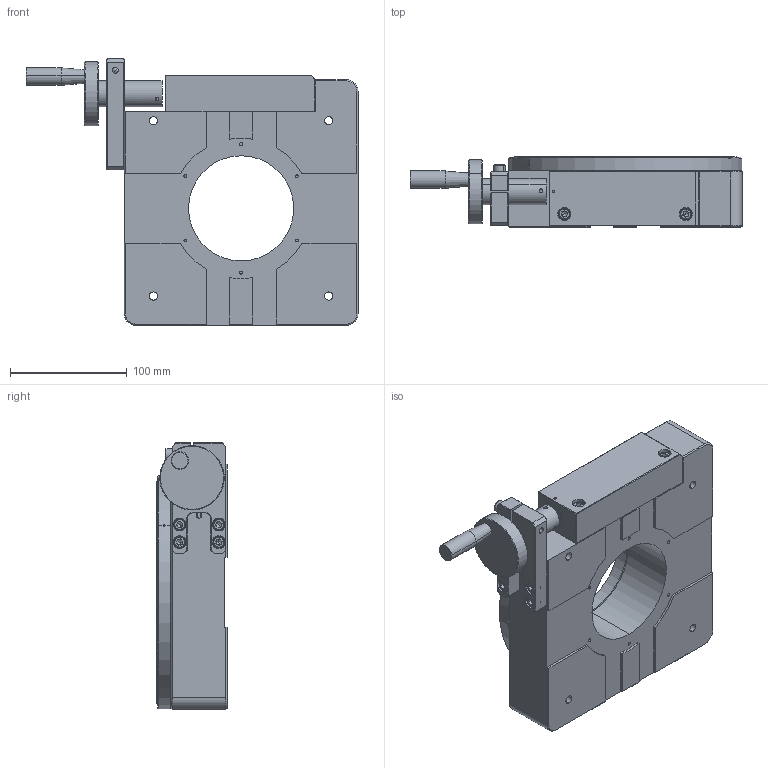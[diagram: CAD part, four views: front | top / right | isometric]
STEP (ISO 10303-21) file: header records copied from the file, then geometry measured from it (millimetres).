
FILE_DESCRIPTION (( 'STEP AP203' ), '1' );
FILE_NAME ('忒雄褒弇怢.STEP', '2020-08-19T05:09:10', ( 'SALES' ), ( 'Microsoft' ), 'SwSTEP 2.0', 'SolidWorks 2016', '' );
FILE_SCHEMA (( 'CONFIG_CONTROL_DESIGN' ));
Length unit declared in the file: millimetre
Products named in the file (1): 忒雄褒弇怢
Bounding box: 284 x 60 x 228 mm (x, y, z)
Surface area: 201927.1 mm2 (no closed solid volume)
Topology: 0 solids, 23 shells, 461 faces, 1416 edges, 918 vertices
Faces by surface type: plane 207, cylinder 186, cone 44, torus 24
Entity records: 16306 total; most frequent: CARTESIAN_POINT 3388, DIRECTION 2852, ORIENTED_EDGE 2353, EDGE_CURVE 1394, AXIS2_PLACEMENT_3D 1038, VERTEX_POINT 918, VECTOR 776, LINE 776
